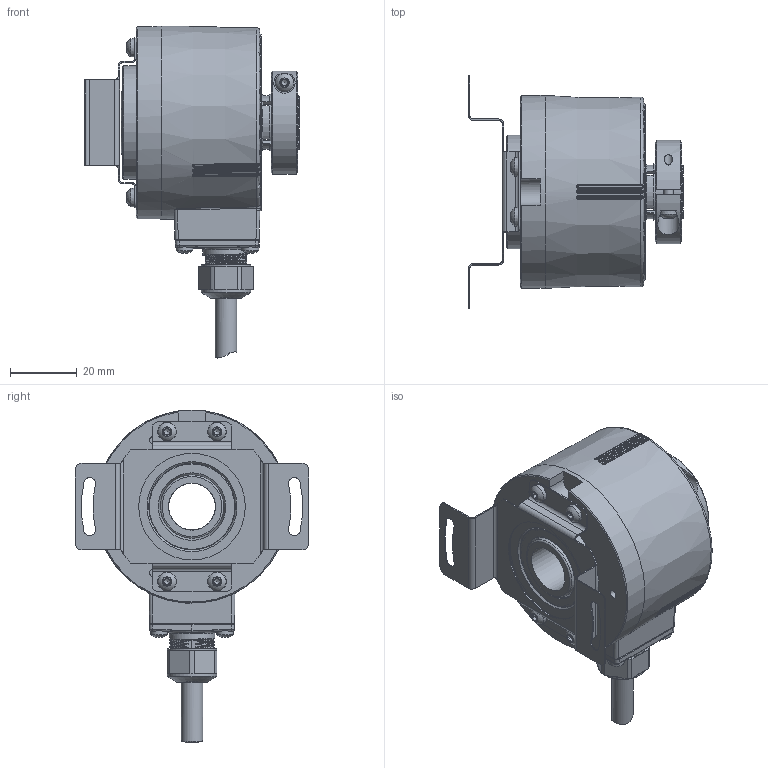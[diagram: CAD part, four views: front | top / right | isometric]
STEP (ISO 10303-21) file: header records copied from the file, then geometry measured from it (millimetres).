
FILE_DESCRIPTION( ( 'Unknown' ), '1' );
FILE_NAME( '//emea.baumernet.org/de05d/RD/caddy/k/GESAMT/EIL580/EIL580/3D/STEP/MarCom/EIL580-TTB4.7Rx.xxxxx.A.stp', 'Unknown', ( 'Unknown' ), ( 'Unknown' ), 'PSStep 19.0.9', 'Unknown', ' ' );
FILE_SCHEMA( ( 'AUTOMOTIVE_DESIGN { 1 0 10303 214 1 1 1 1 }' ) );
Length unit declared in the file: millimetre
Products named in the file (2): Assem1; 1_77
Assembly tree (1 placements, depth 2):
  Assem1
    1_77
Bounding box: 64.5 x 70 x 99.65 mm (x, y, z)
Volume: 107790.4 mm3; surface area: 28405.3 mm2
Topology: 1 solids, 22 shells, 907 faces, 2248 edges, 1398 vertices
Faces by surface type: cylinder 298, plane 295, bspline 164, cone 76, torus 50, sphere 20, revolution 4
Full cylindrical faces by diameter (mm): 2.46 x15, 2.5 x4, 3 x5, 3.2 x4, 3.4 x1, 5 x4, 6.5 x1, 8.2 x1, 12.85 x1, 13.35 x1, 13.8 x1, 14 x1, 14.1 x1, 14.8 x2, 16.8 x1, 16.95 x1, 18.262 x1, 18.704 x1, 19 x2, 19.312 x1, 20.262 x1, 20.704 x1, 21.927 x1, 22.558 x1, 23.904 x1, 24 x1, 24.927 x1, 25.558 x1, 26 x2, 32 x1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
Entity records: 54697 total; most frequent: CARTESIAN_POINT 27860, ORIENTED_EDGE 4060, DIRECTION 3752, EDGE_CURVE 2030, AXIS2_PLACEMENT_3D 1595, VERTEX_POINT 1351, EDGE_LOOP 1153, FACE_OUTER_BOUND 1001
